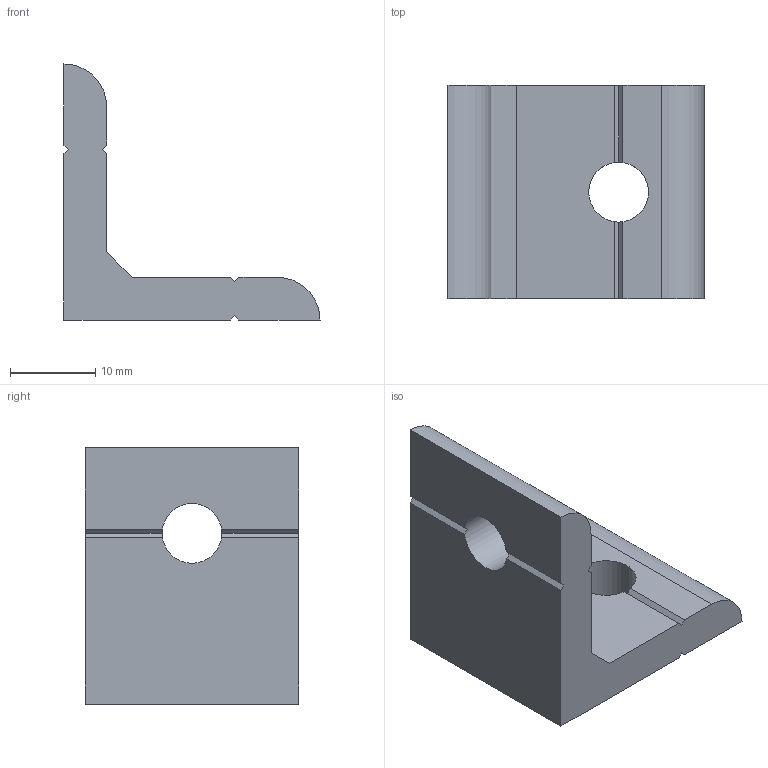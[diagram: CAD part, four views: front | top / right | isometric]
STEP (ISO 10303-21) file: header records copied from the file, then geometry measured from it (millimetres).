
FILE_DESCRIPTION(/* description */ ('Unknown'),/* implementation_level */ '2;1');
FILE_NAME(/* name */ 'AL2530',/* time_stamp */ '2026-09-17T13:03:44+08:00',/* author */ ('Unknown'),/* organization */ ('Unknown'),/* preprocessor_version */ 'ST-DEVELOPER v16.7',/* originating_system */ 'DEX',/* authorisation */ $);
FILE_SCHEMA (('AUTOMOTIVE_DESIGN {1 0 10303 214 3 1 1}'));
Length unit declared in the file: millimetre
Products named in the file (1): AL2530
Bounding box: 30 x 25 x 30 mm (x, y, z)
Volume: 6316.4 mm3; surface area: 3478.1 mm2
Topology: 1 solids, 1 shells, 31 faces, 95 edges, 62 vertices
Faces by surface type: plane 27, cylinder 4
Full cylindrical faces by diameter (mm): 7 x2
Entity records: 1093 total; most frequent: CARTESIAN_POINT 187, ORIENTED_EDGE 186, DIRECTION 185, EDGE_CURVE 93, LINE 65, VECTOR 65, VERTEX_POINT 62, AXIS2_PLACEMENT_3D 60
